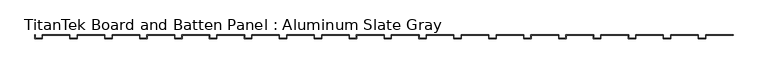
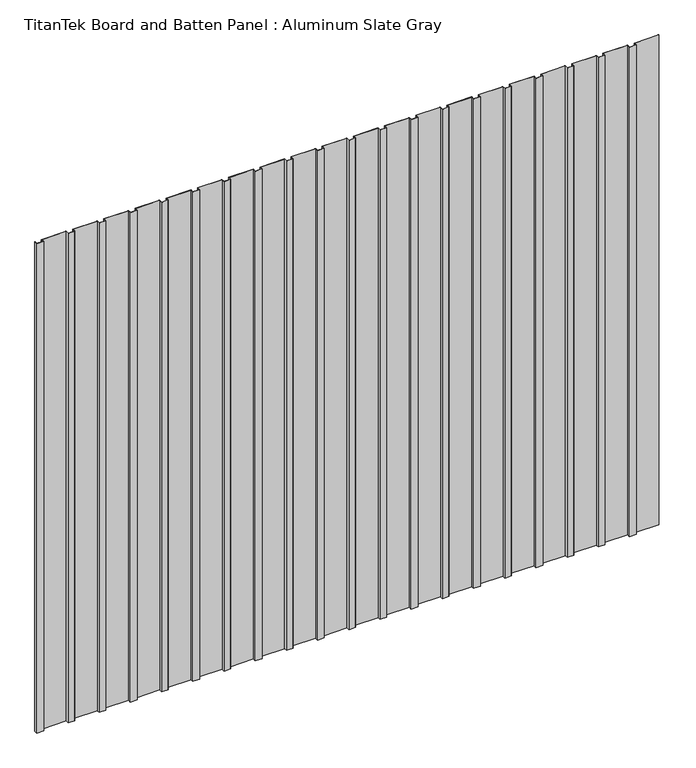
"""IFC4 building model written with IfcOpenShell, lengths in millimetres: proxy geometry, TitanTek Board and Batten Panel : Aluminum Slate Gray."""

import ifcopenshell
import ifcopenshell.guid

model = None  # the IFC model being written
_history = None  # IfcOwnerHistory: only IFC2X3 demands one
_inside = {}  # id of a spatial element -> (the spatial element, [elements in it])
_under = {}  # id of a project, library or spatial element -> (it, [spatial elements below it])
_declared = {}  # id of a project -> (the project, [libraries it declares])
_typed = {}  # id of a type object -> (the type object, [elements of that type])
_made_of = {}  # id of a material, layer set ... -> (it, [elements and type objects made of it])


def new_model(schema):
    """Start an empty IFC model of exactly this schema.

    Asked for "IFC4X3", IfcOpenShell would pick the latest addendum, in which some entities
    have other attributes; the version numbers below select the first issue.
    IFC2X3 requires an IfcOwnerHistory on every rooted entity: one is made here for all.
    """
    global model, _history
    if schema == "IFC4X3":
        model = ifcopenshell.file(schema_version=(4, 3, 0, 0))
    else:
        model = ifcopenshell.file(schema=schema)
    _inside.clear()
    _under.clear()
    _declared.clear()
    _typed.clear()
    _made_of.clear()
    _history = None
    if model.schema == "IFC2X3":
        org = make("IfcOrganization", Name="unknown")
        user = make(
            "IfcPersonAndOrganization",
            ThePerson=make("IfcPerson", FamilyName="unknown"),
            TheOrganization=org,
        )
        app = make(
            "IfcApplication",
            ApplicationDeveloper=org,
            Version="unknown",
            ApplicationFullName="unknown",
            ApplicationIdentifier="unknown",
        )
        _history = make(
            "IfcOwnerHistory",
            OwningUser=user,
            OwningApplication=app,
            ChangeAction="ADDED",
            CreationDate=0,
        )
    return model


def make(cls, **values):
    """One entity of the class cls with the attributes given. An attribute that is None is left unset."""
    return model.create_entity(
        cls, **{name: value for name, value in values.items() if value is not None}
    )


def rooted(cls, **values):
    """An entity with a GlobalId (a new one), such as an element, a storey or a relation."""
    return make(cls, GlobalId=ifcopenshell.guid.new(), OwnerHistory=_history, **values)


def si_unit(unit_type, name, prefix=None):
    """IfcSIUnit, for example si_unit("LENGTHUNIT", "METRE", prefix="MILLI")."""
    return make("IfcSIUnit", UnitType=unit_type, Prefix=prefix, Name=name)


def assignment(units):
    """IfcUnitAssignment: the units of a project."""
    return None if units is None else make("IfcUnitAssignment", Units=units)


def point(xyz):
    """IfcCartesianPoint."""
    return None if xyz is None else make("IfcCartesianPoint", Coordinates=xyz)


def direction(xyz):
    """IfcDirection."""
    return None if xyz is None else make("IfcDirection", DirectionRatios=xyz)


def frame(location, z_axis=None, x_axis=None):
    """IfcAxis2Placement3D, a coordinate frame: its origin and axes. An axis left out is left unset."""
    return make(
        "IfcAxis2Placement3D",
        Location=point(location),
        Axis=direction(z_axis),
        RefDirection=direction(x_axis),
    )


def origin():
    """The frame at (0, 0, 0) with its axes left unset."""
    return frame((0.0, 0.0, 0.0))


def origin_with_axes():
    """The frame at (0, 0, 0) with the z axis (0, 0, 1) and the x axis (1, 0, 0) written out."""
    return frame((0.0, 0.0, 0.0), z_axis=(0.0, 0.0, 1.0), x_axis=(1.0, 0.0, 0.0))


def place(relative_to, where):
    """IfcLocalPlacement: puts the frame where relative to a parent placement (None: the world)."""
    return make(
        "IfcLocalPlacement", PlacementRelTo=relative_to, RelativePlacement=where
    )


def context(
    kind, dimensions, precision=None, world=None, true_north=None, identifier=None
):
    """IfcGeometricRepresentationContext, for example the 3D "Model" context."""
    return make(
        "IfcGeometricRepresentationContext",
        ContextIdentifier=identifier,
        ContextType=kind,
        CoordinateSpaceDimension=dimensions,
        Precision=precision,
        WorldCoordinateSystem=world,
        TrueNorth=true_north,
    )


def project(units=None, contexts=None):
    """IfcProject with its units and contexts."""
    return rooted(
        "IfcProject",
        Name="project",
        RepresentationContexts=contexts,
        UnitsInContext=assignment(units),
    )


def spatial(cls, under=None, at=None, **own):
    """A site, building, storey or space (cls), placed at a placement, below another one or the project."""
    s = rooted(cls, ObjectPlacement=at, **own)
    if under is not None:
        _under.setdefault(under.id(), (under, []))[1].append(s)
    return s


def polyline(points):
    """IfcPolyline through the points."""
    return make("IfcPolyline", Points=[point(p) for p in points])


def outline(outer, holes=None, kind="AREA"):
    """IfcArbitraryClosedProfileDef: a profile drawn as a closed curve; with holes, ...WithVoids."""
    if holes is None:
        return make("IfcArbitraryClosedProfileDef", ProfileType=kind, OuterCurve=outer)
    return make(
        "IfcArbitraryProfileDefWithVoids",
        ProfileType=kind,
        OuterCurve=outer,
        InnerCurves=holes,
    )


def extrude(swept, where, along, depth):
    """IfcExtrudedAreaSolid: the profile swept, set in the frame where, extruded along a direction by depth."""
    return make(
        "IfcExtrudedAreaSolid",
        SweptArea=swept,
        Position=where,
        ExtrudedDirection=direction(along),
        Depth=depth,
    )


def shape(context_of_items, identifier, shape_type, items):
    """IfcShapeRepresentation: the items that make up one representation, for example the "Body"."""
    return make(
        "IfcShapeRepresentation",
        ContextOfItems=context_of_items,
        RepresentationIdentifier=identifier,
        RepresentationType=shape_type,
        Items=items,
    )


def source(mapping_origin, context_of_items, identifier, shape_type, items):
    """IfcRepresentationMap: a shape defined once, which mapped items show again and again."""
    return make(
        "IfcRepresentationMap",
        MappingOrigin=mapping_origin,
        MappedRepresentation=shape(context_of_items, identifier, shape_type, items),
    )


def transform(
    local_origin,
    x_axis=None,
    y_axis=None,
    z_axis=None,
    scale=None,
    scale2=None,
    scale3=None,
    uniform=True,
):
    """IfcCartesianTransformationOperator3D, or its non-uniform kind. x_axis, y_axis, z_axis: its Axis1, 2, 3."""
    if uniform:
        return make(
            "IfcCartesianTransformationOperator3D",
            Axis1=direction(x_axis),
            Axis2=direction(y_axis),
            LocalOrigin=point(local_origin),
            Scale=scale,
            Axis3=direction(z_axis),
        )
    return make(
        "IfcCartesianTransformationOperator3DnonUniform",
        Axis1=direction(x_axis),
        Axis2=direction(y_axis),
        LocalOrigin=point(local_origin),
        Scale=scale,
        Axis3=direction(z_axis),
        Scale2=scale2,
        Scale3=scale3,
    )


def mapped(mapping_source, mapping_target):
    """IfcMappedItem: shows the shape of a source again, moved by a transform."""
    return make(
        "IfcMappedItem", MappingSource=mapping_source, MappingTarget=mapping_target
    )


def made_of(thing, what):
    """Note that an element or type object is made of a material, layer set ...; save() writes the relation."""
    if what is not None:
        _made_of.setdefault(what.id(), (what, []))[1].append(thing)
    return thing


def element(
    cls,
    number,
    at=None,
    inside=None,
    cuts=None,
    type_object=None,
    material=None,
    context=None,
    identifier="Body",
    shape_type=None,
    held_by="IfcProductDefinitionShape",
    body=None,
    shapes=None,
    **own,
):
    """One element of the class cls, such as IfcWall. Its Tag is "e" and its number.

    at: its placement. inside: the storey or other place that contains it. cuts: it is an
    opening in that element (IfcRelVoidsElement). A single representation is given by context,
    identifier, shape_type and body (its items); several are given by shapes. held_by: the class
    of the entity that holds the representations. save() writes the other relations.
    """
    e = rooted(cls, Tag="e%d" % number, ObjectPlacement=at, **own)
    if body is not None:
        shapes = [shape(context, identifier, shape_type, body)]
    if shapes is not None:
        e.Representation = make(held_by, Representations=shapes)
    if inside is not None:
        _inside.setdefault(inside.id(), (inside, []))[1].append(e)
    if cuts is not None:
        rooted(
            "IfcRelVoidsElement", RelatingBuildingElement=cuts, RelatedOpeningElement=e
        )
    if type_object is not None:
        _typed.setdefault(type_object.id(), (type_object, []))[1].append(e)
    return made_of(e, material)


def aggregate(whole, parts):
    """IfcRelAggregates: a whole, such as a stair, and the parts it consists of."""
    return rooted("IfcRelAggregates", RelatingObject=whole, RelatedObjects=parts)


def save(model, path):
    """Write the relations noted so far, then the file.

    IfcRelAggregates (storeys below a building ...), IfcRelContainedInSpatialStructure (elements
    in a storey), IfcRelDefinesByType, IfcRelAssociatesMaterial and IfcRelDeclares: one each for
    every whole, place, type object, material and project.
    """
    for whole, parts in _under.values():
        aggregate(whole, parts)
    for where, things in _inside.values():
        rooted(
            "IfcRelContainedInSpatialStructure",
            RelatedElements=things,
            RelatingStructure=where,
        )
    for kind, things in _typed.values():
        rooted("IfcRelDefinesByType", RelatedObjects=things, RelatingType=kind)
    for what, things in _made_of.values():
        rooted("IfcRelAssociatesMaterial", RelatedObjects=things, RelatingMaterial=what)
    for by, libraries in _declared.values():
        rooted("IfcRelDeclares", RelatingContext=by, RelatedDefinitions=libraries)
    model.write(path)


def titantek_board_and_batten_panel_aluminum_slate_gray_d83a0c41(model_context):
    return source(origin(), model_context, "Body", "SweptSolid", [
        extrude(outline(polyline([(4636.4921875, -0.9921875), (4636.4921875, -25.4), (4584.7, -25.4), (4584.7, 0.0), (4585.6921875, 0.0), (4585.6921875, -24.4078125), (4635.5, -24.4078125), (4635.5, 0.0), (4826.0, 0.0), (4826.0, -0.9921875), (4636.4921875, -0.9921875)])), origin_with_axes(), (0.0, 0.0, 1.0), 4000.0),
        extrude(outline(polyline([(4395.1921875, -0.9921875), (4395.1921875, -25.4), (4343.4, -25.4), (4343.4, 0.0), (4344.3921875, 0.0), (4344.3921875, -24.4078125), (4394.2, -24.4078125), (4394.2, 0.0), (4584.7, 0.0), (4584.7, -0.9921875), (4395.1921875, -0.9921875)])), origin_with_axes(), (0.0, 0.0, 1.0), 4000.0),
        extrude(outline(polyline([(4153.8921875, -0.9921875), (4153.8921875, -25.4), (4102.1, -25.4), (4102.1, 0.0), (4103.0921875, 0.0), (4103.0921875, -24.4078125), (4152.9, -24.4078125), (4152.9, 0.0), (4343.4, 0.0), (4343.4, -0.9921875), (4153.8921875, -0.9921875)])), origin_with_axes(), (0.0, 0.0, 1.0), 4000.0),
        extrude(outline(polyline([(3912.5921875, -0.9921875), (3912.5921875, -25.4), (3860.8, -25.4), (3860.8, 0.0), (3861.7921875, 0.0), (3861.7921875, -24.4078125), (3911.6, -24.4078125), (3911.6, 0.0), (4102.1, 0.0), (4102.1, -0.9921875), (3912.5921875, -0.9921875)])), origin_with_axes(), (0.0, 0.0, 1.0), 4000.0),
        extrude(outline(polyline([(3671.2921875, -0.9921875), (3671.2921875, -25.4), (3619.5, -25.4), (3619.5, 0.0), (3620.4921875, 0.0), (3620.4921875, -24.4078125), (3670.3, -24.4078125), (3670.3, 0.0), (3860.8, 0.0), (3860.8, -0.9921875), (3671.2921875, -0.9921875)])), origin_with_axes(), (0.0, 0.0, 1.0), 4000.0),
        extrude(outline(polyline([(3429.9921875, -0.9921875), (3429.9921875, -25.4), (3378.2, -25.4), (3378.2, 0.0), (3379.1921875, 0.0), (3379.1921875, -24.4078125), (3429.0, -24.4078125), (3429.0, 0.0), (3619.5, 0.0), (3619.5, -0.9921875), (3429.9921875, -0.9921875)])), origin_with_axes(), (0.0, 0.0, 1.0), 4000.0),
        extrude(outline(polyline([(3188.6921875, -0.9921875), (3188.6921875, -25.4), (3136.9, -25.4), (3136.9, 0.0), (3137.8921875, 0.0), (3137.8921875, -24.4078125), (3187.7, -24.4078125), (3187.7, 0.0), (3378.2, 0.0), (3378.2, -0.9921875), (3188.6921875, -0.9921875)])), origin_with_axes(), (0.0, 0.0, 1.0), 4000.0),
        extrude(outline(polyline([(2947.3921875, -0.9921875), (2947.3921875, -25.4), (2895.6, -25.4), (2895.6, 0.0), (2896.5921875, 0.0), (2896.5921875, -24.4078125), (2946.4, -24.4078125), (2946.4, 0.0), (3136.9, 0.0), (3136.9, -0.9921875), (2947.3921875, -0.9921875)])), origin_with_axes(), (0.0, 0.0, 1.0), 4000.0),
        extrude(outline(polyline([(2706.0921875, -0.9921875), (2706.0921875, -25.4), (2654.3, -25.4), (2654.3, 0.0), (2655.2921875, 0.0), (2655.2921875, -24.4078125), (2705.1, -24.4078125), (2705.1, 0.0), (2895.6, 0.0), (2895.6, -0.9921875), (2706.0921875, -0.9921875)])), origin_with_axes(), (0.0, 0.0, 1.0), 4000.0),
        extrude(outline(polyline([(2464.7921875, -0.9921875), (2464.7921875, -25.4), (2413.0, -25.4), (2413.0, 0.0), (2413.9921875, 0.0), (2413.9921875, -24.4078125), (2463.8, -24.4078125), (2463.8, 0.0), (2654.3, 0.0), (2654.3, -0.9921875), (2464.7921875, -0.9921875)])), origin_with_axes(), (0.0, 0.0, 1.0), 4000.0),
        extrude(outline(polyline([(2223.4921875, -0.9921875), (2223.4921875, -25.4), (2171.7, -25.4), (2171.7, 0.0), (2172.6921875, 0.0), (2172.6921875, -24.4078125), (2222.5, -24.4078125), (2222.5, 0.0), (2413.0, 0.0), (2413.0, -0.9921875), (2223.4921875, -0.9921875)])), origin_with_axes(), (0.0, 0.0, 1.0), 4000.0),
        extrude(outline(polyline([(1982.1921875, -0.9921875), (1982.1921875, -25.4), (1930.4, -25.4), (1930.4, 0.0), (1931.3921875, 0.0), (1931.3921875, -24.4078125), (1981.2, -24.4078125), (1981.2, 0.0), (2171.7, 0.0), (2171.7, -0.9921875), (1982.1921875, -0.9921875)])), origin_with_axes(), (0.0, 0.0, 1.0), 4000.0),
        extrude(outline(polyline([(1740.8921875, -0.9921875), (1740.8921875, -25.4), (1689.1, -25.4), (1689.1, 0.0), (1690.0921875, 0.0), (1690.0921875, -24.4078125), (1739.9, -24.4078125), (1739.9, 0.0), (1930.4, 0.0), (1930.4, -0.9921875), (1740.8921875, -0.9921875)])), origin_with_axes(), (0.0, 0.0, 1.0), 4000.0),
        extrude(outline(polyline([(1499.5921875, -0.9921875), (1499.5921875, -25.4), (1447.8, -25.4), (1447.8, 0.0), (1448.7921875, 0.0), (1448.7921875, -24.4078125), (1498.6, -24.4078125), (1498.6, 0.0), (1689.1, 0.0), (1689.1, -0.9921875), (1499.5921875, -0.9921875)])), origin_with_axes(), (0.0, 0.0, 1.0), 4000.0),
        extrude(outline(polyline([(1258.2921875, -0.9921875), (1258.2921875, -25.4), (1206.5, -25.4), (1206.5, 0.0), (1207.4921875, 0.0), (1207.4921875, -24.4078125), (1257.3, -24.4078125), (1257.3, 0.0), (1447.8, 0.0), (1447.8, -0.9921875), (1258.2921875, -0.9921875)])), origin_with_axes(), (0.0, 0.0, 1.0), 4000.0),
        extrude(outline(polyline([(1016.9921875, -0.9921875), (1016.9921875, -25.4), (965.2, -25.4), (965.2, 0.0), (966.1921875, 0.0), (966.1921875, -24.4078125), (1016.0, -24.4078125), (1016.0, 0.0), (1206.5, 0.0), (1206.5, -0.9921875), (1016.9921875, -0.9921875)])), origin_with_axes(), (0.0, 0.0, 1.0), 4000.0),
        extrude(outline(polyline([(775.6921875, -0.9921875), (775.6921875, -25.4), (723.9, -25.4), (723.9, 0.0), (724.8921875, 0.0), (724.8921875, -24.4078125), (774.7, -24.4078125), (774.7, 0.0), (965.2, 0.0), (965.2, -0.9921875), (775.6921875, -0.9921875)])), origin_with_axes(), (0.0, 0.0, 1.0), 4000.0),
        extrude(outline(polyline([(534.3921875, -0.9921875), (534.3921875, -25.4), (482.6, -25.4), (482.6, 0.0), (483.5921875, 0.0), (483.5921875, -24.4078125), (533.4, -24.4078125), (533.4, 0.0), (723.9, 0.0), (723.9, -0.9921875), (534.3921875, -0.9921875)])), origin_with_axes(), (0.0, 0.0, 1.0), 4000.0),
        extrude(outline(polyline([(293.0921875, -0.9921875), (293.0921875, -25.4), (241.3, -25.4), (241.3, 0.0), (242.2921875, 0.0), (242.2921875, -24.4078125), (292.1, -24.4078125), (292.1, 0.0), (482.6, 0.0), (482.6, -0.9921875), (293.0921875, -0.9921875)])), origin_with_axes(), (0.0, 0.0, 1.0), 4000.0),
        extrude(outline(polyline([(51.7921875, -0.9921875), (51.7921875, -25.4), (0.0, -25.4), (0.0, 0.0), (0.9921875, 0.0), (0.9921875, -24.4078125), (50.8, -24.4078125), (50.8, 0.0), (241.3, 0.0), (241.3, -0.9921875), (51.7921875, -0.9921875)])), origin_with_axes(), (0.0, 0.0, 1.0), 4000.0),
    ])


if __name__ == "__main__":
    model = new_model("IFC4")
    model_context = context("Model", 3, world=origin())
    ifc_project = project(units=[si_unit("LENGTHUNIT", "METRE", prefix="MILLI")], contexts=[model_context])
    site = spatial("IfcSite", under=ifc_project)
    building = spatial("IfcBuilding", under=site)
    placement = place(None, origin())
    titantek_board_and_batten_panel_aluminum_slate_gray_shape = titantek_board_and_batten_panel_aluminum_slate_gray_d83a0c41(model_context)
    element("IfcBuildingElementProxy", 1, Name="TitanTek Board and Batten Panel : Aluminum Slate Gray", ObjectType="TitanTek Board and Batten Panel : Aluminum Slate Gray", at=placement, inside=building, context=model_context, shape_type="MappedRepresentation", body=[
        mapped(titantek_board_and_batten_panel_aluminum_slate_gray_shape, transform((0.0, 0.0, 0.0), x_axis=(1.0, 0.0, 0.0), y_axis=(0.0, 1.0, 0.0), z_axis=(0.0, 0.0, 1.0))),
    ])
    save(model, "model.ifc")
